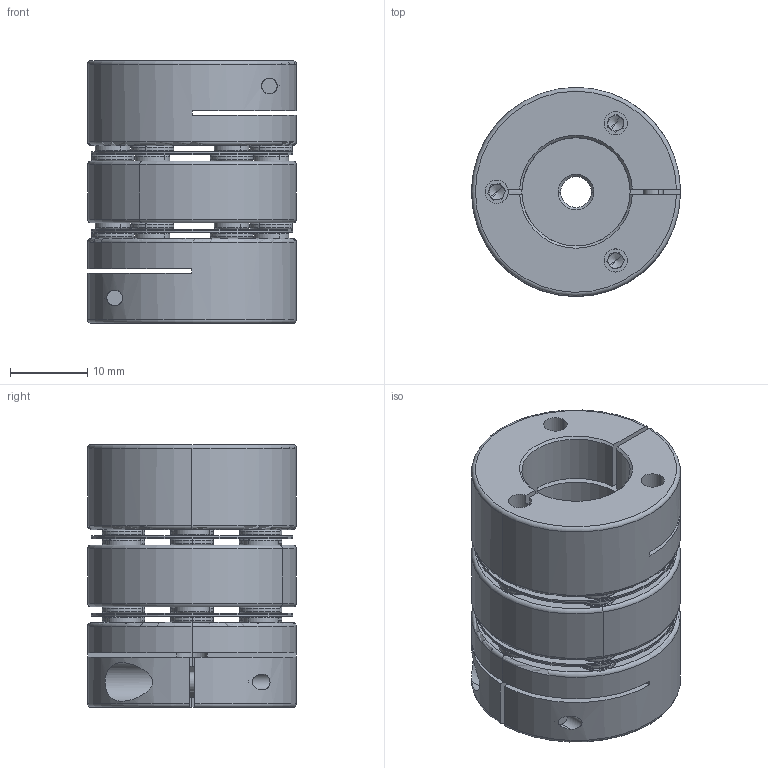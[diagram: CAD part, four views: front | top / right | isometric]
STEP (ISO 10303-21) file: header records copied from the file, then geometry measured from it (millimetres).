
FILE_DESCRIPTION (( 'STEP AP203' ), '1' );
FILE_NAME ('SADW-27C-4-14.STEP', '2019-10-22T09:32:05', ( '' ), ( '' ), 'SwSTEP 2.0', 'SolidWorks 2017', '' );
FILE_SCHEMA (( 'CONFIG_CONTROL_DESIGN' ));
Length unit declared in the file: metre
Products named in the file (1): SADW-27C-4-14
Bounding box: 27 x 27 x 34 mm (x, y, z)
Volume: 13303.4 mm3; surface area: 14575.4 mm2
Topology: 45 solids, 45 shells, 1052 faces, 2330 edges, 1366 vertices
Faces by surface type: cylinder 347, plane 303, cone 206, torus 190, bspline 6
Entity records: 30119 total; most frequent: CARTESIAN_POINT 5909, DIRECTION 5632, ORIENTED_EDGE 4588, AXIS2_PLACEMENT_3D 2353, EDGE_CURVE 2294, VERTEX_POINT 1366, CIRCLE 1306, EDGE_LOOP 1242
